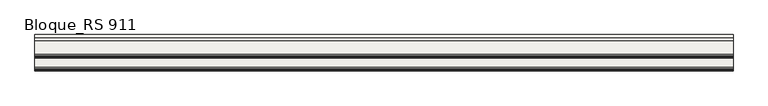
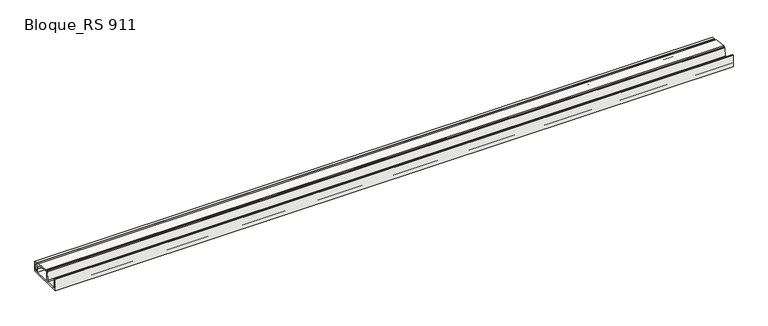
"""IFC4 building model written with IfcOpenShell, lengths in millimetres: slab geometry, ROSA GRES_RS 911 : Bloque_RS 911."""

import ifcopenshell
import ifcopenshell.guid

model = None  # the IFC model being written
_history = None  # IfcOwnerHistory: only IFC2X3 demands one
_inside = {}  # id of a spatial element -> (the spatial element, [elements in it])
_under = {}  # id of a project, library or spatial element -> (it, [spatial elements below it])
_declared = {}  # id of a project -> (the project, [libraries it declares])
_typed = {}  # id of a type object -> (the type object, [elements of that type])
_made_of = {}  # id of a material, layer set ... -> (it, [elements and type objects made of it])


def new_model(schema):
    """Start an empty IFC model of exactly this schema.

    Asked for "IFC4X3", IfcOpenShell would pick the latest addendum, in which some entities
    have other attributes; the version numbers below select the first issue.
    IFC2X3 requires an IfcOwnerHistory on every rooted entity: one is made here for all.
    """
    global model, _history
    if schema == "IFC4X3":
        model = ifcopenshell.file(schema_version=(4, 3, 0, 0))
    else:
        model = ifcopenshell.file(schema=schema)
    _inside.clear()
    _under.clear()
    _declared.clear()
    _typed.clear()
    _made_of.clear()
    _history = None
    if model.schema == "IFC2X3":
        org = make("IfcOrganization", Name="unknown")
        user = make(
            "IfcPersonAndOrganization",
            ThePerson=make("IfcPerson", FamilyName="unknown"),
            TheOrganization=org,
        )
        app = make(
            "IfcApplication",
            ApplicationDeveloper=org,
            Version="unknown",
            ApplicationFullName="unknown",
            ApplicationIdentifier="unknown",
        )
        _history = make(
            "IfcOwnerHistory",
            OwningUser=user,
            OwningApplication=app,
            ChangeAction="ADDED",
            CreationDate=0,
        )
    return model


def make(cls, **values):
    """One entity of the class cls with the attributes given. An attribute that is None is left unset."""
    return model.create_entity(
        cls, **{name: value for name, value in values.items() if value is not None}
    )


def rooted(cls, **values):
    """An entity with a GlobalId (a new one), such as an element, a storey or a relation."""
    return make(cls, GlobalId=ifcopenshell.guid.new(), OwnerHistory=_history, **values)


def si_unit(unit_type, name, prefix=None):
    """IfcSIUnit, for example si_unit("LENGTHUNIT", "METRE", prefix="MILLI")."""
    return make("IfcSIUnit", UnitType=unit_type, Prefix=prefix, Name=name)


def assignment(units):
    """IfcUnitAssignment: the units of a project."""
    return None if units is None else make("IfcUnitAssignment", Units=units)


def point(xyz):
    """IfcCartesianPoint."""
    return None if xyz is None else make("IfcCartesianPoint", Coordinates=xyz)


def direction(xyz):
    """IfcDirection."""
    return None if xyz is None else make("IfcDirection", DirectionRatios=xyz)


def frame(location, z_axis=None, x_axis=None):
    """IfcAxis2Placement3D, a coordinate frame: its origin and axes. An axis left out is left unset."""
    return make(
        "IfcAxis2Placement3D",
        Location=point(location),
        Axis=direction(z_axis),
        RefDirection=direction(x_axis),
    )


def frame_2d(location, x_axis=None):
    """IfcAxis2Placement2D, a coordinate frame in the plane: its origin and x axis."""
    return make(
        "IfcAxis2Placement2D", Location=point(location), RefDirection=direction(x_axis)
    )


def origin():
    """The frame at (0, 0, 0) with its axes left unset."""
    return frame((0.0, 0.0, 0.0))


def place(relative_to, where):
    """IfcLocalPlacement: puts the frame where relative to a parent placement (None: the world)."""
    return make(
        "IfcLocalPlacement", PlacementRelTo=relative_to, RelativePlacement=where
    )


def context(
    kind, dimensions, precision=None, world=None, true_north=None, identifier=None
):
    """IfcGeometricRepresentationContext, for example the 3D "Model" context."""
    return make(
        "IfcGeometricRepresentationContext",
        ContextIdentifier=identifier,
        ContextType=kind,
        CoordinateSpaceDimension=dimensions,
        Precision=precision,
        WorldCoordinateSystem=world,
        TrueNorth=true_north,
    )


def project(units=None, contexts=None):
    """IfcProject with its units and contexts."""
    return rooted(
        "IfcProject",
        Name="project",
        RepresentationContexts=contexts,
        UnitsInContext=assignment(units),
    )


def spatial(cls, under=None, at=None, **own):
    """A site, building, storey or space (cls), placed at a placement, below another one or the project."""
    s = rooted(cls, ObjectPlacement=at, **own)
    if under is not None:
        _under.setdefault(under.id(), (under, []))[1].append(s)
    return s


def polyline(points):
    """IfcPolyline through the points."""
    return make("IfcPolyline", Points=[point(p) for p in points])


def circle_curve(where, radius):
    """IfcCircle in the frame where."""
    return make("IfcCircle", Position=where, Radius=radius)


def trimmed(basis, trim1, trim2, sense, master):
    """IfcTrimmedCurve: the piece of a basis curve between two trims."""
    return make(
        "IfcTrimmedCurve",
        BasisCurve=basis,
        Trim1=trim1,
        Trim2=trim2,
        SenseAgreement=sense,
        MasterRepresentation=master,
    )


def segment(curve, same_sense, transition):
    """IfcCompositeCurveSegment."""
    return make(
        "IfcCompositeCurveSegment",
        Transition=transition,
        SameSense=same_sense,
        ParentCurve=curve,
    )


def composite_curve(segments, self_intersect=None):
    """IfcCompositeCurve: segments joined end to end."""
    return make("IfcCompositeCurve", Segments=segments, SelfIntersect=self_intersect)


def outline(outer, holes=None, kind="AREA"):
    """IfcArbitraryClosedProfileDef: a profile drawn as a closed curve; with holes, ...WithVoids."""
    if holes is None:
        return make("IfcArbitraryClosedProfileDef", ProfileType=kind, OuterCurve=outer)
    return make(
        "IfcArbitraryProfileDefWithVoids",
        ProfileType=kind,
        OuterCurve=outer,
        InnerCurves=holes,
    )


def extrude(swept, where, along, depth):
    """IfcExtrudedAreaSolid: the profile swept, set in the frame where, extruded along a direction by depth."""
    return make(
        "IfcExtrudedAreaSolid",
        SweptArea=swept,
        Position=where,
        ExtrudedDirection=direction(along),
        Depth=depth,
    )


def shape(context_of_items, identifier, shape_type, items):
    """IfcShapeRepresentation: the items that make up one representation, for example the "Body"."""
    return make(
        "IfcShapeRepresentation",
        ContextOfItems=context_of_items,
        RepresentationIdentifier=identifier,
        RepresentationType=shape_type,
        Items=items,
    )


def source(mapping_origin, context_of_items, identifier, shape_type, items):
    """IfcRepresentationMap: a shape defined once, which mapped items show again and again."""
    return make(
        "IfcRepresentationMap",
        MappingOrigin=mapping_origin,
        MappedRepresentation=shape(context_of_items, identifier, shape_type, items),
    )


def transform(
    local_origin,
    x_axis=None,
    y_axis=None,
    z_axis=None,
    scale=None,
    scale2=None,
    scale3=None,
    uniform=True,
):
    """IfcCartesianTransformationOperator3D, or its non-uniform kind. x_axis, y_axis, z_axis: its Axis1, 2, 3."""
    if uniform:
        return make(
            "IfcCartesianTransformationOperator3D",
            Axis1=direction(x_axis),
            Axis2=direction(y_axis),
            LocalOrigin=point(local_origin),
            Scale=scale,
            Axis3=direction(z_axis),
        )
    return make(
        "IfcCartesianTransformationOperator3DnonUniform",
        Axis1=direction(x_axis),
        Axis2=direction(y_axis),
        LocalOrigin=point(local_origin),
        Scale=scale,
        Axis3=direction(z_axis),
        Scale2=scale2,
        Scale3=scale3,
    )


def mapped(mapping_source, mapping_target):
    """IfcMappedItem: shows the shape of a source again, moved by a transform."""
    return make(
        "IfcMappedItem", MappingSource=mapping_source, MappingTarget=mapping_target
    )


def made_of(thing, what):
    """Note that an element or type object is made of a material, layer set ...; save() writes the relation."""
    if what is not None:
        _made_of.setdefault(what.id(), (what, []))[1].append(thing)
    return thing


def element(
    cls,
    number,
    at=None,
    inside=None,
    cuts=None,
    type_object=None,
    material=None,
    context=None,
    identifier="Body",
    shape_type=None,
    held_by="IfcProductDefinitionShape",
    body=None,
    shapes=None,
    **own,
):
    """One element of the class cls, such as IfcWall. Its Tag is "e" and its number.

    at: its placement. inside: the storey or other place that contains it. cuts: it is an
    opening in that element (IfcRelVoidsElement). A single representation is given by context,
    identifier, shape_type and body (its items); several are given by shapes. held_by: the class
    of the entity that holds the representations. save() writes the other relations.
    """
    e = rooted(cls, Tag="e%d" % number, ObjectPlacement=at, **own)
    if body is not None:
        shapes = [shape(context, identifier, shape_type, body)]
    if shapes is not None:
        e.Representation = make(held_by, Representations=shapes)
    if inside is not None:
        _inside.setdefault(inside.id(), (inside, []))[1].append(e)
    if cuts is not None:
        rooted(
            "IfcRelVoidsElement", RelatingBuildingElement=cuts, RelatedOpeningElement=e
        )
    if type_object is not None:
        _typed.setdefault(type_object.id(), (type_object, []))[1].append(e)
    return made_of(e, material)


def aggregate(whole, parts):
    """IfcRelAggregates: a whole, such as a stair, and the parts it consists of."""
    return rooted("IfcRelAggregates", RelatingObject=whole, RelatedObjects=parts)


def save(model, path):
    """Write the relations noted so far, then the file.

    IfcRelAggregates (storeys below a building ...), IfcRelContainedInSpatialStructure (elements
    in a storey), IfcRelDefinesByType, IfcRelAssociatesMaterial and IfcRelDeclares: one each for
    every whole, place, type object, material and project.
    """
    for whole, parts in _under.values():
        aggregate(whole, parts)
    for where, things in _inside.values():
        rooted(
            "IfcRelContainedInSpatialStructure",
            RelatedElements=things,
            RelatingStructure=where,
        )
    for kind, things in _typed.values():
        rooted("IfcRelDefinesByType", RelatedObjects=things, RelatingType=kind)
    for what, things in _made_of.values():
        rooted("IfcRelAssociatesMaterial", RelatedObjects=things, RelatingMaterial=what)
    for by, libraries in _declared.values():
        rooted("IfcRelDeclares", RelatingContext=by, RelatedDefinitions=libraries)
    model.write(path)


def bloque_rs_911_ba672ed2(model_context):
    return source(origin(), model_context, "Body", "SweptSolid", [
        extrude(outline(composite_curve([segment(polyline([(-12.836227, 1.7539108), (-626.836227, 1.7539108), (-626.836227, 216.3460936), (-616.836227, 216.3460936), (-616.836227, 206.3460936), (-598.836227, 206.3460936), (-587.1239808, 55.2086635)]), True, "CONTINUOUS"), segment(trimmed(circle_curve(frame_2d((-567.1837649, 56.7539108)), 20.0), [point((-587.1239808, 55.2086635))], [point((-567.1837649, 36.7539108))], True, "CARTESIAN"), True, "CONTINUOUS"), segment(polyline([(-567.1837649, 36.7539108), (-413.4886891, 36.7539108)]), True, "CONTINUOUS"), segment(trimmed(circle_curve(frame_2d((-413.4886891, 56.7539108)), 20.0), [point((-413.4886891, 36.7539108))], [point((-393.5484732, 55.2086635))], True, "CARTESIAN"), True, "CONTINUOUS"), segment(polyline([(-393.5484732, 55.2086635), (-381.836227, 206.3460936), (-363.836227, 206.3460936), (-363.836227, 216.3460936), (-343.836227, 216.3460936), (-343.836227, 214.7181867), (-123.836227, 196.8112099), (-125.1172881, 181.0724591), (-72.836227, 176.8170239), (-72.836227, 173.8170239), (-67.836227, 173.8170239), (-67.836227, 176.4100471), (-12.836227, 171.9333029), (-12.836227, 1.7539108)]), True, "CONTINUOUS")], self_intersect=False), holes=[composite_curve([segment(polyline([(-67.836227, 140.6431347), (-67.836227, 36.7539108)]), True, "CONTINUOUS"), segment(trimmed(circle_curve(frame_2d((-59.836227, 36.7539108)), 8.0), [point((-67.836227, 36.7539108))], [point((-59.836227, 28.7539108))], True, "CARTESIAN"), True, "CONTINUOUS"), segment(polyline([(-59.836227, 28.7539108), (-47.836227, 28.7539108)]), True, "CONTINUOUS"), segment(trimmed(circle_curve(frame_2d((-47.836227, 36.7539108)), 8.0), [point((-47.836227, 28.7539108))], [point((-39.836227, 36.7539108))], True, "CARTESIAN"), True, "CONTINUOUS"), segment(polyline([(-39.836227, 36.7539108), (-39.836227, 139.6663905)]), True, "CONTINUOUS"), segment(trimmed(circle_curve(frame_2d((-47.836227, 139.6663905)), 8.0), [point((-39.836227, 139.6663905))], [point((-47.1872106, 147.6400206))], True, "CARTESIAN"), True, "CONTINUOUS"), segment(polyline([(-47.1872106, 147.6400206), (-59.1872106, 148.6167648)]), True, "CONTINUOUS"), segment(trimmed(circle_curve(frame_2d((-59.836227, 140.6431347)), 8.0), [point((-59.1872106, 148.6167648))], [point((-67.836227, 140.6431347))], True, "CARTESIAN"), True, "CONTINUOUS")], self_intersect=False), composite_curve([segment(polyline([(-180.4105134, 169.2541533), (-334.6837717, 181.811279)]), True, "CONTINUOUS"), segment(trimmed(circle_curve(frame_2d((-336.3063127, 161.8772036)), 20.0), [point((-334.6837717, 181.811279))], [point((-356.3063127, 161.8772036))], True, "CARTESIAN"), True, "CONTINUOUS"), segment(polyline([(-356.3063127, 161.8772036), (-356.3063127, 28.7539108), (-102.3063127, 28.7539108), (-102.3063127, 84.534333)]), True, "CONTINUOUS"), segment(trimmed(circle_curve(frame_2d((-187.3063127, 84.534333)), 85.0), [point((-102.3063127, 84.534333))], [point((-180.4105134, 169.2541533))], True, "CARTESIAN"), True, "CONTINUOUS")], self_intersect=False)]), frame((0.0, 0.0, 0.0), z_axis=(1.0, 0.0, 0.0), x_axis=(0.0, 1.0, 0.0)), (0.0, 0.0, 1.0), 11762.4049789),
    ])


if __name__ == "__main__":
    model = new_model("IFC4")
    model_context = context("Model", 3, world=origin())
    ifc_project = project(units=[si_unit("LENGTHUNIT", "METRE", prefix="MILLI")], contexts=[model_context])
    site = spatial("IfcSite", under=ifc_project)
    building = spatial("IfcBuilding", under=site)
    placement = place(None, origin())
    bloque_rs_911_shape = bloque_rs_911_ba672ed2(model_context)
    element("IfcSlab", 1, ObjectType="ROSA GRES_RS 911 : Bloque_RS 911", at=placement, inside=building, context=model_context, shape_type="MappedRepresentation", body=[
        mapped(bloque_rs_911_shape, transform((0.0, 0.0, 0.0), x_axis=(1.0, 0.0, 0.0), y_axis=(0.0, 1.0, 0.0), z_axis=(0.0, 0.0, 1.0))),
    ])
    save(model, "model.ifc")
